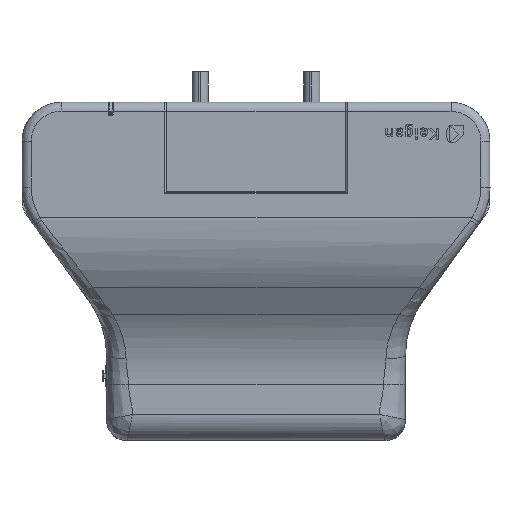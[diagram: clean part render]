
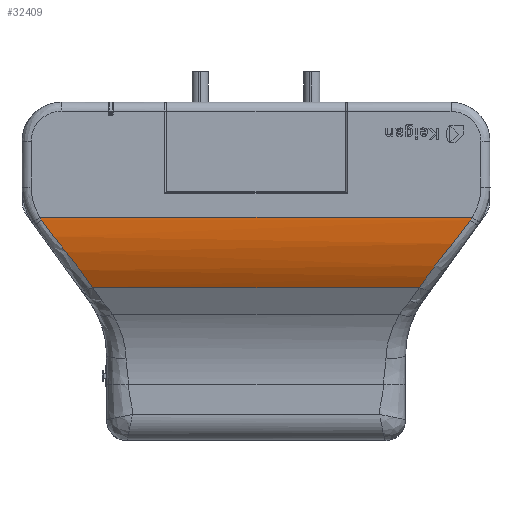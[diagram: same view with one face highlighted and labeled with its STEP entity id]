
A CAD part, top view. The second image highlights one B-rep face of the part: STEP entity #32409.
In plain terms, the highlighted cylindrical face has radius 100 mm (diameter 200 mm), a partial arc.
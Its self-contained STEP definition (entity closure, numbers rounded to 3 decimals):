
#1084 = DIRECTION ( 'NONE',  ( 1., 0., 0. ) ) ;
#1553 = CARTESIAN_POINT ( 'NONE',  ( -164.859, 39.341, 298.977 ) ) ;
#2143 = EDGE_CURVE ( 'NONE', #10289, #19286, #2852, .T. ) ;
#2852 = B_SPLINE_CURVE_WITH_KNOTS ( 'NONE', 3,
 ( #6125, #25976, #35380, #6338, #21928, #31557, #38801, #25554, #22142, #9527 ),
 .UNSPECIFIED., .F., .F.,
 ( 4, 2, 2, 2, 4 ),
 ( 0., 0.25, 0.5, 0.75, 1. ),
 .UNSPECIFIED. ) ;
#3035 = CARTESIAN_POINT ( 'NONE',  ( 125.766, -12.587, 283.118 ) ) ;
#3773 = CARTESIAN_POINT ( 'NONE',  ( 165.784, 40.76, 299. ) ) ;
#5598 = CARTESIAN_POINT ( 'NONE',  ( 164.859, 39.341, 298.977 ) ) ;
#6125 = CARTESIAN_POINT ( 'NONE',  ( -125.766, -12.587, 283.118 ) ) ;
#6338 = CARTESIAN_POINT ( 'NONE',  ( -137.538, 4.064, 291.847 ) ) ;
#7268 = EDGE_CURVE ( 'NONE', #19286, #9763, #27090, .T. ) ;
#7464 = EDGE_CURVE ( 'NONE', #25804, #35311, #22007, .T. ) ;
#7959 = CARTESIAN_POINT ( 'NONE',  ( -165.331, 40.044, 298.992 ) ) ;
#8341 = ORIENTED_EDGE ( 'NONE', *, *, #7268, .F. ) ;
#8996 = EDGE_CURVE ( 'NONE', #35311, #14841, #12697, .T. ) ;
#9527 = CARTESIAN_POINT ( 'NONE',  ( -164.859, 39.341, 298.977 ) ) ;
#9763 = VERTEX_POINT ( 'NONE', #31708 ) ;
#10152 = CARTESIAN_POINT ( 'NONE',  ( 165.331, 40.044, 298.992 ) ) ;
#10289 = VERTEX_POINT ( 'NONE', #30143 ) ;
#10456 = CARTESIAN_POINT ( 'NONE',  ( 55.406, 41.489, 299. ) ) ;
#10578 = CARTESIAN_POINT ( 'NONE',  ( 164.859, 39.341, 298.977 ) ) ;
#12614 = CARTESIAN_POINT ( 'NONE',  ( 140.877, 8.288, 293.433 ) ) ;
#12697 = B_SPLINE_CURVE_WITH_KNOTS ( 'NONE', 3,
 ( #5598, #38249, #32290, #28871, #12826, #12614, #38472, #28236, #16033, #3035 ),
 .UNSPECIFIED., .F., .F.,
 ( 4, 2, 2, 2, 4 ),
 ( 0., 0.25, 0.5, 0.75, 1. ),
 .UNSPECIFIED. ) ;
#12826 = CARTESIAN_POINT ( 'NONE',  ( 147.745, 16.836, 296.016 ) ) ;
#14783 = ORIENTED_EDGE ( 'NONE', *, *, #39106, .F. ) ;
#14841 = VERTEX_POINT ( 'NONE', #31109 ) ;
#16033 = CARTESIAN_POINT ( 'NONE',  ( 128.371, -8.488, 285.753 ) ) ;
#17220 = AXIS2_PLACEMENT_3D ( 'NONE', #30355, #1084, #28191 ) ;
#17302 = CARTESIAN_POINT ( 'NONE',  ( 166.218, 41.489, 299. ) ) ;
#17524 = DIRECTION ( 'NONE',  ( -1., 0., 0. ) ) ;
#17783 = CARTESIAN_POINT ( 'NONE',  ( -165.784, 40.76, 299. ) ) ;
#19065 = CARTESIAN_POINT ( 'NONE',  ( 164.859, 39.341, 298.977 ) ) ;
#19286 = VERTEX_POINT ( 'NONE', #38748 ) ;
#20982 = CARTESIAN_POINT ( 'NONE',  ( -166.218, 41.489, 299. ) ) ;
#21349 = CYLINDRICAL_SURFACE ( 'NONE', #17220, 100. ) ;
#21928 = CARTESIAN_POINT ( 'NONE',  ( -140.877, 8.288, 293.433 ) ) ;
#22007 = B_SPLINE_CURVE_WITH_KNOTS ( 'NONE', 3,
 ( #39410, #3773, #10152, #10578 ),
 .UNSPECIFIED., .F., .F.,
 ( 4, 4 ),
 ( 0., 1. ),
 .UNSPECIFIED. ) ;
#22142 = CARTESIAN_POINT ( 'NONE',  ( -161.665, 34.586, 298.875 ) ) ;
#22492 = B_SPLINE_CURVE_WITH_KNOTS ( 'NONE', 3,
 ( #33519, #10456, #30531, #39702 ),
 .UNSPECIFIED., .F., .F.,
 ( 4, 4 ),
 ( 0., 1. ),
 .UNSPECIFIED. ) ;
#24570 = EDGE_LOOP ( 'NONE', ( #30113, #35982, #8341, #28924, #14783, #36253 ) ) ;
#25285 = EDGE_CURVE ( 'NONE', #25804, #9763, #22492, .T. ) ;
#25554 = CARTESIAN_POINT ( 'NONE',  ( -158.235, 30.036, 298.444 ) ) ;
#25804 = VERTEX_POINT ( 'NONE', #17302 ) ;
#25976 = CARTESIAN_POINT ( 'NONE',  ( -128.371, -8.488, 285.753 ) ) ;
#27090 = B_SPLINE_CURVE_WITH_KNOTS ( 'NONE', 3,
 ( #1553, #7959, #17783, #20982 ),
 .UNSPECIFIED., .F., .F.,
 ( 4, 4 ),
 ( 0., 1. ),
 .UNSPECIFIED. ) ;
#28191 = DIRECTION ( 'NONE',  ( 0., 0., -1. ) ) ;
#28236 = CARTESIAN_POINT ( 'NONE',  ( 131.285, -4.324, 288.008 ) ) ;
#28871 = CARTESIAN_POINT ( 'NONE',  ( 151.275, 21.162, 297.015 ) ) ;
#28924 = ORIENTED_EDGE ( 'NONE', *, *, #2143, .F. ) ;
#30113 = ORIENTED_EDGE ( 'NONE', *, *, #7464, .F. ) ;
#30143 = CARTESIAN_POINT ( 'NONE',  ( -125.766, -12.587, 283.118 ) ) ;
#30355 = CARTESIAN_POINT ( 'NONE',  ( -168.213, 41.489, 199. ) ) ;
#30531 = CARTESIAN_POINT ( 'NONE',  ( -55.406, 41.489, 299. ) ) ;
#30892 = VECTOR ( 'NONE', #17524, 1000. ) ;
#31109 = CARTESIAN_POINT ( 'NONE',  ( 125.766, -12.587, 283.118 ) ) ;
#31378 = CARTESIAN_POINT ( 'NONE',  ( 0., -12.587, 283.118 ) ) ;
#31557 = CARTESIAN_POINT ( 'NONE',  ( -147.745, 16.836, 296.016 ) ) ;
#31708 = CARTESIAN_POINT ( 'NONE',  ( -166.218, 41.489, 299. ) ) ;
#32290 = CARTESIAN_POINT ( 'NONE',  ( 158.235, 30.036, 298.444 ) ) ;
#32409 = ADVANCED_FACE ( 'NONE', ( #34176 ), #21349, .T. ) ;
#33519 = CARTESIAN_POINT ( 'NONE',  ( 166.218, 41.489, 299. ) ) ;
#34176 = FACE_OUTER_BOUND ( 'NONE', #24570, .T. ) ;
#35311 = VERTEX_POINT ( 'NONE', #19065 ) ;
#35380 = CARTESIAN_POINT ( 'NONE',  ( -131.285, -4.324, 288.008 ) ) ;
#35982 = ORIENTED_EDGE ( 'NONE', *, *, #25285, .T. ) ;
#36253 = ORIENTED_EDGE ( 'NONE', *, *, #8996, .F. ) ;
#38249 = CARTESIAN_POINT ( 'NONE',  ( 161.665, 34.586, 298.875 ) ) ;
#38472 = CARTESIAN_POINT ( 'NONE',  ( 137.538, 4.064, 291.847 ) ) ;
#38748 = CARTESIAN_POINT ( 'NONE',  ( -164.859, 39.341, 298.977 ) ) ;
#38801 = CARTESIAN_POINT ( 'NONE',  ( -151.275, 21.162, 297.015 ) ) ;
#39106 = EDGE_CURVE ( 'NONE', #14841, #10289, #40564, .T. ) ;
#39410 = CARTESIAN_POINT ( 'NONE',  ( 166.218, 41.489, 299. ) ) ;
#39702 = CARTESIAN_POINT ( 'NONE',  ( -166.218, 41.489, 299. ) ) ;
#40564 = LINE ( 'NONE', #31378, #30892 ) ;
